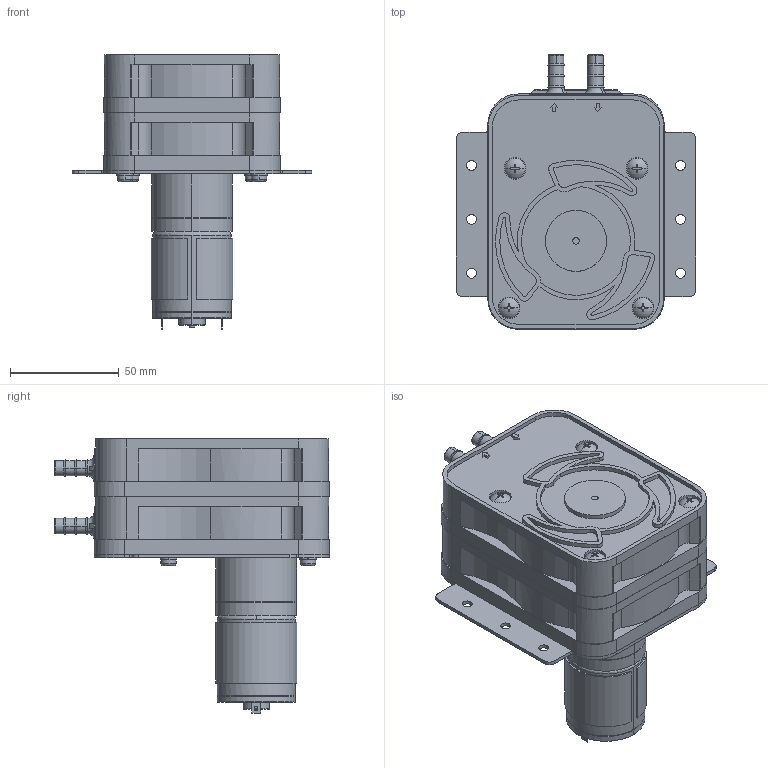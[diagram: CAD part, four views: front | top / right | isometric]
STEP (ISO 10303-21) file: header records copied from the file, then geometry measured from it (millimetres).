
FILE_DESCRIPTION (( 'STEP AP214' ), '1' );
FILE_NAME ('RP-2S06x-1400Z- & RP-2S07x-1600Z-.STEP', '2021-06-14T01:45:00', ( '' ), ( '' ), 'SwSTEP 2.0', 'SolidWorks 2021', '' );
FILE_SCHEMA (( 'AUTOMOTIVE_DESIGN' ));
Length unit declared in the file: millimetre
Products named in the file (8): ソリッド1-16; WEB用上ケース; WEB用下ケース; WEB用ジョイナー; AR-BL29_RP-S_モーター取付板（曲げなし）; TP-3640C-HM-25-S-24B; ソリッド1-8; RP-2S06x-1400Z- & RP-2S07x-1600Z-
Assembly tree (16 placements, depth 2):
  RP-2S06x-1400Z- & RP-2S07x-1600Z-
    ソリッド1-8  x4
    ソリッド1-16  x4
    AR-BL29_RP-S_モーター取付板（曲げなし）
    WEB用上ケース  x2
    WEB用下ケース  x2
    WEB用ジョイナー  x2
    TP-3640C-HM-25-S-24B
Bounding box: 110 x 126 x 125.9 mm (x, y, z)
Volume: 542698.8 mm3; surface area: 155163.4 mm2
Topology: 19 solids, 25 shells, 1527 faces, 3888 edges, 2512 vertices
Faces by surface type: cylinder 715, plane 618, torus 126, cone 58, sphere 8, bspline 2
Entity records: 25435 total; most frequent: CARTESIAN_POINT 5013, DIRECTION 4468, ORIENTED_EDGE 4046, EDGE_CURVE 2025, AXIS2_PLACEMENT_3D 1734, VERTEX_POINT 1313, LINE 1000, VECTOR 1000
